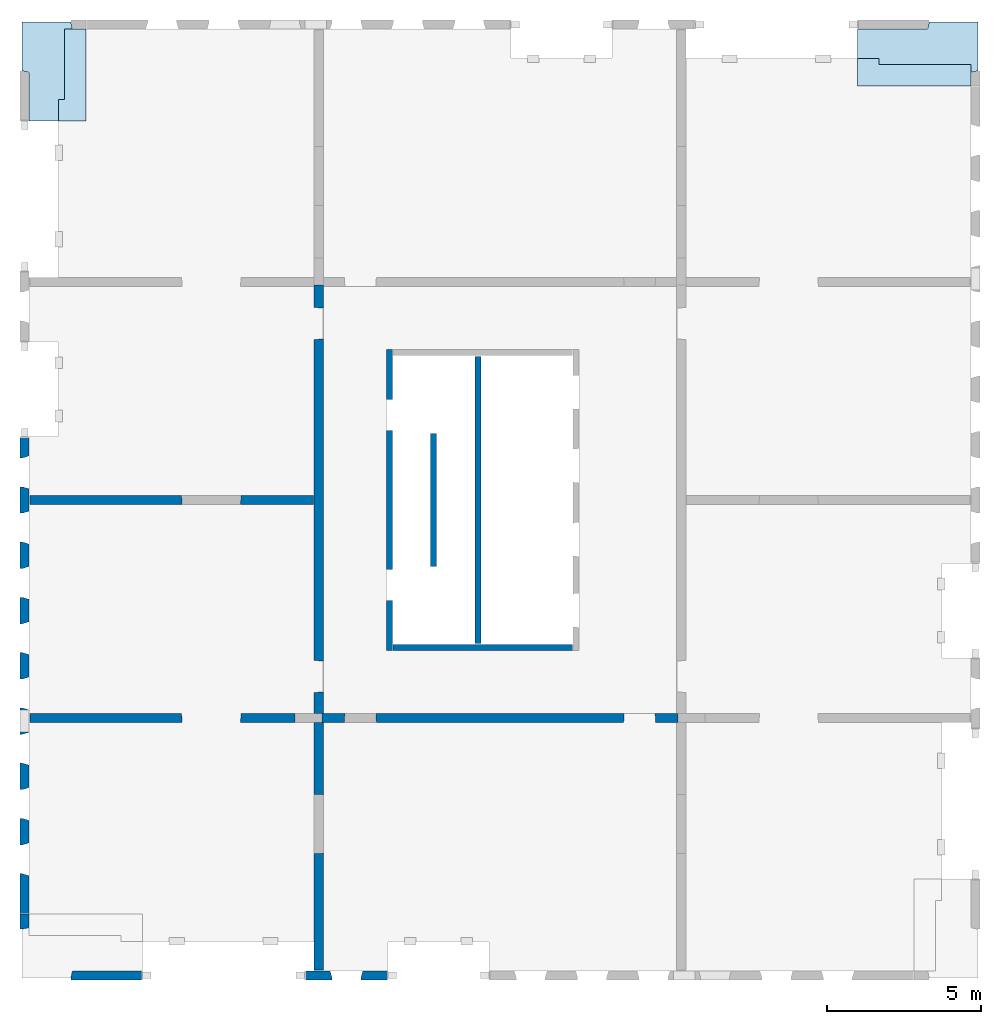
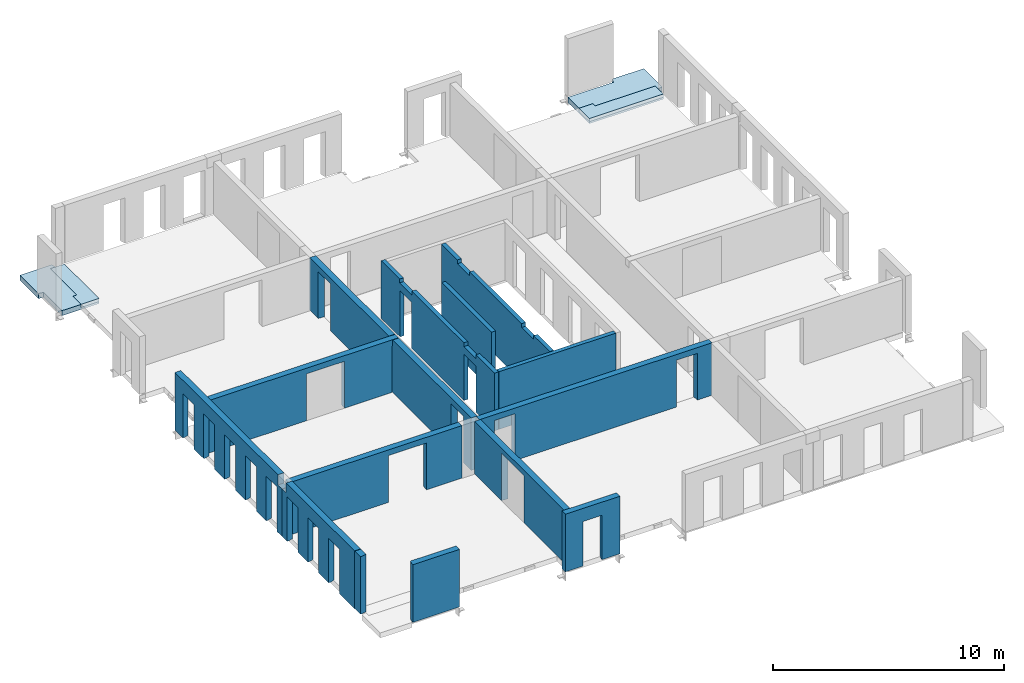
# One storey, part 2 of 4: 14 walls, 4 slabs, 34 openings.
"""IFC2X3 building model written with IfcOpenShell, lengths in millimetres."""

import ifcopenshell
import ifcopenshell.guid

model = None  # the IFC model being written
_history = None  # IfcOwnerHistory: only IFC2X3 demands one
_inside = {}  # id of a spatial element -> (the spatial element, [elements in it])
_under = {}  # id of a project, library or spatial element -> (it, [spatial elements below it])
_declared = {}  # id of a project -> (the project, [libraries it declares])
_typed = {}  # id of a type object -> (the type object, [elements of that type])
_made_of = {}  # id of a material, layer set ... -> (it, [elements and type objects made of it])


def new_model(schema):
    """Start an empty IFC model of exactly this schema.

    Asked for "IFC4X3", IfcOpenShell would pick the latest addendum, in which some entities
    have other attributes; the version numbers below select the first issue.
    IFC2X3 requires an IfcOwnerHistory on every rooted entity: one is made here for all.
    """
    global model, _history
    if schema == "IFC4X3":
        model = ifcopenshell.file(schema_version=(4, 3, 0, 0))
    else:
        model = ifcopenshell.file(schema=schema)
    _inside.clear()
    _under.clear()
    _declared.clear()
    _typed.clear()
    _made_of.clear()
    _history = None
    if model.schema == "IFC2X3":
        org = make("IfcOrganization", Name="unknown")
        user = make(
            "IfcPersonAndOrganization",
            ThePerson=make("IfcPerson", FamilyName="unknown"),
            TheOrganization=org,
        )
        app = make(
            "IfcApplication",
            ApplicationDeveloper=org,
            Version="unknown",
            ApplicationFullName="unknown",
            ApplicationIdentifier="unknown",
        )
        _history = make(
            "IfcOwnerHistory",
            OwningUser=user,
            OwningApplication=app,
            ChangeAction="ADDED",
            CreationDate=0,
        )
    return model


def make(cls, **values):
    """One entity of the class cls with the attributes given. An attribute that is None is left unset."""
    return model.create_entity(
        cls, **{name: value for name, value in values.items() if value is not None}
    )


def entity(cls, *values):
    """Any entity or typed value of the class cls, its attributes in the order of the schema. None: left unset."""
    e = model.create_entity(cls)
    for i, value in enumerate(values):
        if value is not None:
            e[i] = value
    return e


def rooted(cls, **values):
    """An entity with a GlobalId (a new one), such as an element, a storey or a relation."""
    return make(cls, GlobalId=ifcopenshell.guid.new(), OwnerHistory=_history, **values)


def si_unit(unit_type, name, prefix=None):
    """IfcSIUnit, for example si_unit("LENGTHUNIT", "METRE", prefix="MILLI")."""
    return make("IfcSIUnit", UnitType=unit_type, Prefix=prefix, Name=name)


def converted_unit(unit_type, name, factor, base, dimensions=None, offset=None):
    """IfcConversionBasedUnit, such as the inch: factor (a typed value) times the base unit."""
    return make(
        "IfcConversionBasedUnit"
        if offset is None
        else "IfcConversionBasedUnitWithOffset",
        ConversionOffset=offset,
        Dimensions=None
        if dimensions is None
        else entity("IfcDimensionalExponents", *dimensions),
        UnitType=unit_type,
        Name=name,
        ConversionFactor=make(
            "IfcMeasureWithUnit", ValueComponent=factor, UnitComponent=base
        ),
    )


def derived_unit(unit_type, elements):
    """IfcDerivedUnit: a product of units, each with its exponent."""
    return make(
        "IfcDerivedUnit",
        Elements=[
            make("IfcDerivedUnitElement", Unit=unit, Exponent=power)
            for unit, power in elements
        ],
        UnitType=unit_type,
    )


def assignment(units):
    """IfcUnitAssignment: the units of a project."""
    return None if units is None else make("IfcUnitAssignment", Units=units)


def point(xyz):
    """IfcCartesianPoint."""
    return None if xyz is None else make("IfcCartesianPoint", Coordinates=xyz)


def direction(xyz):
    """IfcDirection."""
    return None if xyz is None else make("IfcDirection", DirectionRatios=xyz)


def frame(location, z_axis=None, x_axis=None):
    """IfcAxis2Placement3D, a coordinate frame: its origin and axes. An axis left out is left unset."""
    return make(
        "IfcAxis2Placement3D",
        Location=point(location),
        Axis=direction(z_axis),
        RefDirection=direction(x_axis),
    )


def frame_2d(location, x_axis=None):
    """IfcAxis2Placement2D, a coordinate frame in the plane: its origin and x axis."""
    return make(
        "IfcAxis2Placement2D", Location=point(location), RefDirection=direction(x_axis)
    )


def origin():
    """The frame at (0, 0, 0) with its axes left unset."""
    return frame((0.0, 0.0, 0.0))


def place(relative_to, where):
    """IfcLocalPlacement: puts the frame where relative to a parent placement (None: the world)."""
    return make(
        "IfcLocalPlacement", PlacementRelTo=relative_to, RelativePlacement=where
    )


def context(
    kind, dimensions, precision=None, world=None, true_north=None, identifier=None
):
    """IfcGeometricRepresentationContext, for example the 3D "Model" context."""
    return make(
        "IfcGeometricRepresentationContext",
        ContextIdentifier=identifier,
        ContextType=kind,
        CoordinateSpaceDimension=dimensions,
        Precision=precision,
        WorldCoordinateSystem=world,
        TrueNorth=true_north,
    )


def subcontext(parent, identifier, kind, view, scale=None):
    """IfcGeometricRepresentationSubContext, for example "Body" below "Model"."""
    return make(
        "IfcGeometricRepresentationSubContext",
        ContextIdentifier=identifier,
        ContextType=kind,
        ParentContext=parent,
        TargetScale=scale,
        TargetView=view,
    )


def project(units=None, contexts=None):
    """IfcProject with its units and contexts."""
    return rooted(
        "IfcProject",
        Name="project",
        RepresentationContexts=contexts,
        UnitsInContext=assignment(units),
    )


def spatial(cls, under=None, at=None, **own):
    """A site, building, storey or space (cls), placed at a placement, below another one or the project."""
    s = rooted(cls, ObjectPlacement=at, **own)
    if under is not None:
        _under.setdefault(under.id(), (under, []))[1].append(s)
    return s


def polyline(points):
    """IfcPolyline through the points."""
    return make("IfcPolyline", Points=[point(p) for p in points])


def profile(cls, at=None, kind="AREA", **sizes):
    """A parametric profile (cls). Its sizes go by their IFC names, for example OverallWidth=200.0."""
    return make(cls, ProfileType=kind, Position=at, **sizes)


def rectangle(**sizes):
    """IfcRectangleProfileDef."""
    return profile("IfcRectangleProfileDef", **sizes)


def outline(outer, holes=None, kind="AREA"):
    """IfcArbitraryClosedProfileDef: a profile drawn as a closed curve; with holes, ...WithVoids."""
    if holes is None:
        return make("IfcArbitraryClosedProfileDef", ProfileType=kind, OuterCurve=outer)
    return make(
        "IfcArbitraryProfileDefWithVoids",
        ProfileType=kind,
        OuterCurve=outer,
        InnerCurves=holes,
    )


def extrude(swept, where, along, depth):
    """IfcExtrudedAreaSolid: the profile swept, set in the frame where, extruded along a direction by depth."""
    return make(
        "IfcExtrudedAreaSolid",
        SweptArea=swept,
        Position=where,
        ExtrudedDirection=direction(along),
        Depth=depth,
    )


def faces_of(points, faces, orient=None, outer=None):
    """IfcFace entities. A face is a list of loops; a loop is a list of indices into points, from 0.

    orient and outer hold one flag for each loop. By default every Orientation is true, the
    first loop of a face is its IfcFaceOuterBound and the others are IfcFaceBound.
    """
    made = []
    for i, loops in enumerate(faces):
        bounds = []
        for j, loop in enumerate(loops):
            is_outer = j == 0 if outer is None else outer[i][j]
            bounds.append(
                make(
                    "IfcFaceOuterBound" if is_outer else "IfcFaceBound",
                    Bound=make("IfcPolyLoop", Polygon=[points[k] for k in loop]),
                    Orientation=True if orient is None else orient[i][j],
                )
            )
        made.append(make("IfcFace", Bounds=bounds))
    return made


def faceted_brep(points, faces, orient=None, outer=None, voids=None):
    """IfcFacetedBrep: a solid bounded by flat faces; with voids (closed shells), ...WithVoids."""
    shared = [point(p) for p in points]
    hull = make("IfcClosedShell", CfsFaces=faces_of(shared, faces, orient, outer))
    if voids is None:
        return make("IfcFacetedBrep", Outer=hull)
    return make(
        "IfcFacetedBrepWithVoids",
        Outer=hull,
        Voids=[
            make(cls, CfsFaces=faces_of(shared, fs, o, b)) for cls, fs, o, b in voids
        ],
    )


def shape(context_of_items, identifier, shape_type, items):
    """IfcShapeRepresentation: the items that make up one representation, for example the "Body"."""
    return make(
        "IfcShapeRepresentation",
        ContextOfItems=context_of_items,
        RepresentationIdentifier=identifier,
        RepresentationType=shape_type,
        Items=items,
    )


def material(Name=None, Category=None):
    """IfcMaterial."""
    return make("IfcMaterial", Name=Name, Category=Category)


def layer(
    of_material, thickness, ventilated=None, Name=None, Category=None, Priority=None
):
    """IfcMaterialLayer: one layer of a wall or slab, of a material (None: an air gap)."""
    return make(
        "IfcMaterialLayer",
        Material=of_material,
        LayerThickness=thickness,
        IsVentilated=ventilated,
        Name=Name,
        Category=Category,
        Priority=Priority,
    )


def layer_set(layers, Name=None):
    """IfcMaterialLayerSet."""
    return make("IfcMaterialLayerSet", MaterialLayers=layers, LayerSetName=Name)


def layer_usage(for_layer_set, set_direction, sense, offset, extent=None):
    """IfcMaterialLayerSetUsage: how a layer set lies in its element."""
    return make(
        "IfcMaterialLayerSetUsage",
        ForLayerSet=for_layer_set,
        LayerSetDirection=set_direction,
        DirectionSense=sense,
        OffsetFromReferenceLine=offset,
        ReferenceExtent=extent,
    )


def made_of(thing, what):
    """Note that an element or type object is made of a material, layer set ...; save() writes the relation."""
    if what is not None:
        _made_of.setdefault(what.id(), (what, []))[1].append(thing)
    return thing


def type_object(cls, material=None, **own):
    """A type object (cls), such as IfcWallType, which elements share."""
    return made_of(rooted(cls, **own), material)


def element(
    cls,
    number,
    at=None,
    inside=None,
    cuts=None,
    type_object=None,
    material=None,
    context=None,
    identifier="Body",
    shape_type=None,
    held_by="IfcProductDefinitionShape",
    body=None,
    shapes=None,
    **own,
):
    """One element of the class cls, such as IfcWall. Its Tag is "e" and its number.

    at: its placement. inside: the storey or other place that contains it. cuts: it is an
    opening in that element (IfcRelVoidsElement). A single representation is given by context,
    identifier, shape_type and body (its items); several are given by shapes. held_by: the class
    of the entity that holds the representations. save() writes the other relations.
    """
    e = rooted(cls, Tag="e%d" % number, ObjectPlacement=at, **own)
    if body is not None:
        shapes = [shape(context, identifier, shape_type, body)]
    if shapes is not None:
        e.Representation = make(held_by, Representations=shapes)
    if inside is not None:
        _inside.setdefault(inside.id(), (inside, []))[1].append(e)
    if cuts is not None:
        rooted(
            "IfcRelVoidsElement", RelatingBuildingElement=cuts, RelatedOpeningElement=e
        )
    if type_object is not None:
        _typed.setdefault(type_object.id(), (type_object, []))[1].append(e)
    return made_of(e, material)


def aggregate(whole, parts):
    """IfcRelAggregates: a whole, such as a stair, and the parts it consists of."""
    return rooted("IfcRelAggregates", RelatingObject=whole, RelatedObjects=parts)


def save(model, path):
    """Write the relations noted so far, then the file.

    IfcRelAggregates (storeys below a building ...), IfcRelContainedInSpatialStructure (elements
    in a storey), IfcRelDefinesByType, IfcRelAssociatesMaterial and IfcRelDeclares: one each for
    every whole, place, type object, material and project.
    """
    for whole, parts in _under.values():
        aggregate(whole, parts)
    for where, things in _inside.values():
        rooted(
            "IfcRelContainedInSpatialStructure",
            RelatedElements=things,
            RelatingStructure=where,
        )
    for kind, things in _typed.values():
        rooted("IfcRelDefinesByType", RelatedObjects=things, RelatingType=kind)
    for what, things in _made_of.values():
        rooted("IfcRelAssociatesMaterial", RelatedObjects=things, RelatingMaterial=what)
    for by, libraries in _declared.values():
        rooted("IfcRelDeclares", RelatingContext=by, RelatedDefinitions=libraries)
    model.write(path)


model = new_model("IFC2X3")

# Units and contexts
model_context = context("Model", 3, precision=0.01, world=origin(), true_north=direction((6.12303176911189e-17, 1.0)))
body_context = subcontext(model_context, "Body", "Model", "MODEL_VIEW")
ifc_project = project(units=[si_unit("LENGTHUNIT", "METRE", prefix="MILLI"), si_unit("AREAUNIT", "SQUARE_METRE"), si_unit("VOLUMEUNIT", "CUBIC_METRE"), converted_unit("PLANEANGLEUNIT", "DEGREE", entity("IfcRatioMeasure", 0.0174532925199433), si_unit("PLANEANGLEUNIT", "RADIAN"), dimensions=[0, 0, 0, 0, 0, 0, 0]), si_unit("MASSUNIT", "GRAM", prefix="KILO"), derived_unit("MASSDENSITYUNIT", [(si_unit("MASSUNIT", "GRAM", prefix="KILO"), 1), (si_unit("LENGTHUNIT", "METRE"), -3)]), si_unit("TIMEUNIT", "SECOND"), si_unit("FREQUENCYUNIT", "HERTZ"), si_unit("THERMODYNAMICTEMPERATUREUNIT", "DEGREE_CELSIUS"), derived_unit("THERMALTRANSMITTANCEUNIT", [(si_unit("MASSUNIT", "GRAM", prefix="KILO"), 1), (si_unit("THERMODYNAMICTEMPERATUREUNIT", "KELVIN"), -1), (si_unit("TIMEUNIT", "SECOND"), -3)]), derived_unit("VOLUMETRICFLOWRATEUNIT", [(si_unit("LENGTHUNIT", "METRE"), 3), (si_unit("TIMEUNIT", "SECOND"), -1)]), si_unit("ELECTRICCURRENTUNIT", "AMPERE"), si_unit("ELECTRICVOLTAGEUNIT", "VOLT"), si_unit("POWERUNIT", "WATT"), si_unit("FORCEUNIT", "NEWTON", prefix="KILO"), si_unit("ILLUMINANCEUNIT", "LUX"), si_unit("LUMINOUSFLUXUNIT", "LUMEN"), si_unit("LUMINOUSINTENSITYUNIT", "CANDELA"), derived_unit("USERDEFINED", [(si_unit("MASSUNIT", "GRAM", prefix="KILO"), -1), (si_unit("LENGTHUNIT", "METRE"), -2), (si_unit("TIMEUNIT", "SECOND"), 3), (si_unit("LUMINOUSFLUXUNIT", "LUMEN"), 1)]), derived_unit("LINEARVELOCITYUNIT", [(si_unit("LENGTHUNIT", "METRE"), 1), (si_unit("TIMEUNIT", "SECOND"), -1)]), si_unit("PRESSUREUNIT", "PASCAL"), derived_unit("USERDEFINED", [(si_unit("LENGTHUNIT", "METRE"), -2), (si_unit("MASSUNIT", "GRAM", prefix="KILO"), 1), (si_unit("TIMEUNIT", "SECOND"), -2)])], contexts=[model_context])

# Site, building, storey
site_placement = place(None, origin())
site = spatial("IfcSite", under=ifc_project, at=site_placement, Name="Default", CompositionType="ELEMENT")
building_placement = place(site_placement, origin())
building = spatial("IfcBuilding", under=site, at=building_placement, Name="niet gebruiken", CompositionType="ELEMENT")
storey_placement = place(building_placement, frame((0.0, 0.0, 134280.0)))
storey = spatial("IfcBuildingStorey", under=building, at=storey_placement, Name="43 drieënveertigste verdieping", CompositionType="ELEMENT", Elevation=134280.0)

# Slabs
ifc_material_1 = material(Name="NLRS_f2_beton prefab")
ifc_layer_1 = layer(ifc_material_1, 270.0)
ifc_layer_set_1 = layer_set([ifc_layer_1], Name="Floor:NLRS_23.22_FL_beton prefab d=270 3D element_gen")
ifc_layer_usage_1 = layer_usage(ifc_layer_set_1, "AXIS3", "POSITIVE", 0.0)
slab_1_placement = place(storey_placement, origin())
element("IfcSlab", 1, at=slab_1_placement, inside=storey, material=ifc_layer_usage_1, Name="Floor:NLRS_23.22_FL_beton prefab d=270 3D element_gen", ObjectType="Floor:NLRS_23.22_FL_beton prefab d=270 3D element_gen", PredefinedType="LANDING", context=body_context, shape_type="SweptSolid", body=[
    extrude(outline(polyline([(-322.675940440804, -982.471394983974), (1267.47139498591, -982.471394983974), (1267.47139498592, 607.675940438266), (1034.47139498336, 655.152429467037), (1034.47139498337, 1100.5286050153), (-1955.52860501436, 1100.52860501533), (-1955.52860501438, -749.471394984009), (-370.152429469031, -749.471394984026), (-322.675940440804, -982.471394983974)])), frame((127169.471394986, 31795.5286050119, -90.0), z_axis=(0.0, 0.0, -1.0), x_axis=(0.0, 1.0, 0.0)), (0.0, 0.0, 1.0), 270.000000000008),
])
ifc_material_2 = material(Name="NLRS_f2_beton ihwg")
ifc_layer_2 = layer(ifc_material_2, 170.0)
ifc_layer_set_2 = layer_set([ifc_layer_2], Name="Floor:NLRS_23.21_FL_beton ihwg d=170_gen")
ifc_layer_usage_2 = layer_usage(ifc_layer_set_2, "AXIS3", "POSITIVE", 0.0)
slab_2_placement = place(storey_placement, origin())
element("IfcSlab", 2, at=slab_2_placement, inside=storey, material=ifc_layer_usage_2, Name="Floor:NLRS_23.21_FL_beton ihwg d=170_gen", ObjectType="Floor:NLRS_23.21_FL_beton ihwg d=170_gen", PredefinedType="FLOOR", context=body_context, shape_type="SweptSolid", body=[
    extrude(outline(polyline([(-1230.0, -366.666666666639), (-530.0, -366.666666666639), (-530.0, -166.66666666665), (1760.0, -166.666666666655), (1760.0, 533.333333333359), (-1230.0, 533.333333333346), (-1230.0, -366.666666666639)])), frame((127736.666666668, 31070.0, -90.0), z_axis=(0.0, 0.0, -1.0), x_axis=(0.0, 1.0, 0.0)), (0.0, 0.0, 1.0), 169.999999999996),
])
ifc_layer_usage_3 = layer_usage(ifc_layer_set_1, "AXIS3", "POSITIVE", 0.0)
slab_3_placement = place(storey_placement, origin())
element("IfcSlab", 3, at=slab_3_placement, inside=storey, material=ifc_layer_usage_3, Name="Floor:NLRS_23.22_FL_beton prefab d=270 3D element_gen", ObjectType="Floor:NLRS_23.22_FL_beton prefab d=270 3D element_gen", PredefinedType="LANDING", context=body_context, shape_type="SweptSolid", body=[
    extrude(outline(polyline([(-1100.52860501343, -2480.52860501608), (749.471394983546, -2480.52860501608), (749.471394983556, -195.152429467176), (982.471394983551, -147.675940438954), (982.471394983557, 1442.47139498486), (-607.675940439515, 1442.47139498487), (-655.152429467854, 1209.47139498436), (-1100.52860501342, 1209.47139498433), (-1100.52860501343, -2480.52860501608)])), frame((155870.528605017, 32080.5286050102, -90.0), z_axis=(0.0, 0.0, -1.0), x_axis=(0.0, 1.0, 0.0)), (0.0, 0.0, 1.0), 270.000000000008),
])
ifc_layer_usage_4 = layer_usage(ifc_layer_set_2, "AXIS3", "POSITIVE", 0.0)
slab_4_placement = place(storey_placement, origin())
element("IfcSlab", 4, at=slab_4_placement, inside=storey, material=ifc_layer_usage_4, Name="Floor:NLRS_23.21_FL_beton ihwg d=170_gen", ObjectType="Floor:NLRS_23.21_FL_beton ihwg d=170_gen", PredefinedType="FLOOR", context=body_context, shape_type="SweptSolid", body=[
    extrude(outline(polyline([(-533.333333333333, -1463.33333333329), (366.666666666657, -1463.33333333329), (366.666666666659, -763.333333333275), (166.66666666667, -763.333333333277), (166.666666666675, 2226.66666666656), (-533.333333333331, 2226.66666666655), (-533.333333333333, -1463.33333333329)])), frame((154853.333333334, 31513.3333333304, -90.0), z_axis=(0.0, 0.0, -1.0), x_axis=(0.0, 1.0, 0.0)), (0.0, 0.0, 1.0), 169.999999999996),
])

# Wall, openings
ifc_layer_3 = layer(ifc_material_1, 200.0)
ifc_layer_set_3 = layer_set([ifc_layer_3], Name="Basic Wall:NLRS_22.21_WA_beton prefab d=200_gen")
ifc_layer_usage_5 = layer_usage(ifc_layer_set_3, "AXIS2", "NEGATIVE", 100.0)
wall_type_1 = type_object("IfcWallType", Name="Basic Wall:NLRS_22.21_WA_beton prefab d=200_gen", PredefinedType="STANDARD", material=ifc_layer_set_3)
wall_1_placement = place(storey_placement, frame((138150.0, 22400.0, -50.0), z_axis=(0.0, 0.0, 1.0), x_axis=(0.0, -1.0, 0.0)))
wall_1 = element("IfcWallStandardCase", 5, at=wall_1_placement, inside=storey, type_object=wall_type_1, material=ifc_layer_usage_5, Name="Basic Wall:NLRS_22.21_WA_beton prefab d=200_gen", ObjectType="Basic Wall:NLRS_22.21_WA_beton prefab d=200_gen", context=body_context, shape_type="SweptSolid", body=[
    extrude(rectangle(XDim=9800.0, YDim=199.999999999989, at=frame_2d((4900.0, 3.76587649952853e-13), x_axis=(-1.0, 0.0))), origin(), (0.0, 0.0, 1.0), 3040.0),
])
opening_1_placement = place(wall_1_placement, origin())
element("IfcOpeningElement", 6, at=opening_1_placement, cuts=wall_1, Name="Basic Wall:NLRS_22.21_WA_beton prefab d=200_gen", ObjectType="Opening", context=body_context, shape_type="SweptSolid", body=[
    extrude(rectangle(XDim=200.000000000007, YDim=1044.0, at=frame_2d((-8.66862137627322e-12, 0.0), x_axis=(1.0, 0.0))), frame((7672.0, -100.0, 2940.0), z_axis=(0.0, 1.0, 0.0), x_axis=(0.0, 0.0, -1.0)), (0.0, 0.0, 1.0), 199.999999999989),
])
opening_2_placement = place(wall_1_placement, origin())
element("IfcOpeningElement", 7, at=opening_2_placement, cuts=wall_1, Name="Basic Wall:NLRS_22.21_WA_beton prefab d=200_gen", ObjectType="Opening", context=body_context, shape_type="SweptSolid", body=[
    extrude(rectangle(XDim=200.000000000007, YDim=1044.0, at=frame_2d((-8.66862137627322e-12, 2.1600499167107e-12), x_axis=(1.0, 0.0))), frame((2128.0, -100.0, 2940.0), z_axis=(0.0, 1.0, 0.0), x_axis=(0.0, 0.0, -1.0)), (0.0, 0.0, 1.0), 199.999999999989),
])
opening_3_placement = place(wall_1_placement, origin())
element("IfcOpeningElement", 8, at=opening_3_placement, cuts=wall_1, Name="Basic Wall:NLRS_22.21_WA_beton prefab d=200_gen", ObjectType="Opening", context=body_context, shape_type="SweptSolid", body=[
    extrude(rectangle(XDim=2435.0, YDim=1015.99999999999, at=frame_2d((0.0, 1.10844666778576e-12), x_axis=(1.0, 0.0))), frame((7672.0, -100.0, 1217.50000000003), z_axis=(0.0, 1.0, 0.0), x_axis=(0.0, 0.0, -1.0)), (0.0, 0.0, 1.0), 199.999999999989),
])
opening_4_placement = place(wall_1_placement, origin())
element("IfcOpeningElement", 9, at=opening_4_placement, cuts=wall_1, Name="Basic Wall:NLRS_22.21_WA_beton prefab d=200_gen", ObjectType="Opening", context=body_context, shape_type="SweptSolid", body=[
    extrude(rectangle(XDim=2435.0, YDim=1015.99999999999, at=frame_2d((0.0, -2.18847162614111e-12), x_axis=(1.0, 0.0))), frame((2128.0, -100.0, 1217.50000000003), z_axis=(0.0, 1.0, 0.0), x_axis=(0.0, 0.0, -1.0)), (0.0, 0.0, 1.0), 199.999999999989),
])

ifc_layer_usage_6 = layer_usage(ifc_layer_set_3, "AXIS2", "NEGATIVE", 100.0)
wall_2_placement = place(storey_placement, frame((141030.0, 22180.0, -50.0), z_axis=(0.0, 0.0, 1.0), x_axis=(0.0, -1.0, 0.0)))
wall_2 = element("IfcWallStandardCase", 10, at=wall_2_placement, inside=storey, type_object=wall_type_1, material=ifc_layer_usage_6, Name="Basic Wall:NLRS_22.21_WA_beton prefab d=200_gen", ObjectType="Basic Wall:NLRS_22.21_WA_beton prefab d=200_gen", context=body_context, shape_type="SweptSolid", body=[
    extrude(rectangle(XDim=9360.0, YDim=199.999999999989, at=frame_2d((4680.0, -2.8421709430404e-14), x_axis=(-1.0, 0.0))), origin(), (0.0, 0.0, 1.0), 3040.0),
])
opening_5_placement = place(wall_2_placement, origin())
element("IfcOpeningElement", 11, at=opening_5_placement, cuts=wall_2, Name="Basic Wall:NLRS_22.21_WA_beton prefab d=200_gen", ObjectType="Opening", context=body_context, shape_type="SweptSolid", body=[
    extrude(rectangle(XDim=70.0000000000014, YDim=1044.00000000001, at=frame_2d((-8.66506866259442e-12, 0.0), x_axis=(1.0, 0.0))), frame((7452.0, -100.0, 35.0), z_axis=(0.0, 1.0, 0.0), x_axis=(0.0, 0.0, -1.0)), (0.0, 0.0, 1.0), 199.999999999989),
])
opening_6_placement = place(wall_2_placement, origin())
element("IfcOpeningElement", 12, at=opening_6_placement, cuts=wall_2, Name="Basic Wall:NLRS_22.21_WA_beton prefab d=200_gen", ObjectType="Opening", context=body_context, shape_type="SweptSolid", body=[
    extrude(rectangle(XDim=70.0000000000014, YDim=1044.00000000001, at=frame_2d((-8.66506866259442e-12, 0.0), x_axis=(1.0, 0.0))), frame((1908.0, -100.0, 35.0), z_axis=(0.0, 1.0, 0.0), x_axis=(0.0, 0.0, -1.0)), (0.0, 0.0, 1.0), 199.999999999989),
])
opening_7_placement = place(wall_2_placement, origin())
element("IfcOpeningElement", 13, at=opening_7_placement, cuts=wall_2, Name="Basic Wall:NLRS_22.21_WA_beton prefab d=200_gen", ObjectType="Opening", context=body_context, shape_type="SweptSolid", body=[
    extrude(rectangle(XDim=200.000000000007, YDim=1044.00000000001, at=frame_2d((-8.66862137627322e-12, 0.0), x_axis=(1.0, 0.0))), frame((1908.0, -100.0, 2940.0), z_axis=(0.0, 1.0, 0.0), x_axis=(0.0, 0.0, -1.0)), (0.0, 0.0, 1.0), 199.999999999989),
])
opening_8_placement = place(wall_2_placement, origin())
element("IfcOpeningElement", 14, at=opening_8_placement, cuts=wall_2, Name="Basic Wall:NLRS_22.21_WA_beton prefab d=200_gen", ObjectType="Opening", context=body_context, shape_type="SweptSolid", body=[
    extrude(rectangle(XDim=200.000000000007, YDim=1044.00000000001, at=frame_2d((-8.66862137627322e-12, 0.0), x_axis=(1.0, 0.0))), frame((7452.0, -100.0, 2940.0), z_axis=(0.0, 1.0, 0.0), x_axis=(0.0, 0.0, -1.0)), (0.0, 0.0, 1.0), 199.999999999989),
])
opening_9_placement = place(wall_2_placement, origin())
element("IfcOpeningElement", 15, at=opening_9_placement, cuts=wall_2, Name="Basic Wall:NLRS_22.21_WA_beton prefab d=200_gen", ObjectType="Recess", context=body_context, shape_type="SweptSolid", body=[
    extrude(rectangle(XDim=399.999999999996, YDim=280.000000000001, at=frame_2d((-2.1600499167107e-12, -8.66862137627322e-12), x_axis=(0.0, 1.0))), frame((770.0, -60.0, 438.0), z_axis=(0.0, 1.0, 0.0), x_axis=(1.0, 0.0, 0.0)), (0.0, 0.0, 1.0), 159.999999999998),
])
opening_10_placement = place(wall_2_placement, origin())
element("IfcOpeningElement", 16, at=opening_10_placement, cuts=wall_2, Name="Basic Wall:NLRS_22.21_WA_beton prefab d=200_gen", ObjectType="Recess", context=body_context, shape_type="SweptSolid", body=[
    extrude(rectangle(XDim=399.999999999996, YDim=280.000000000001, at=frame_2d((-2.1600499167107e-12, -8.66862137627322e-12), x_axis=(0.0, 1.0))), frame((1570.0, -60.0, 438.0), z_axis=(0.0, 1.0, 0.0), x_axis=(1.0, 0.0, 0.0)), (0.0, 0.0, 1.0), 159.999999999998),
])
opening_11_placement = place(wall_2_placement, origin())
element("IfcOpeningElement", 17, at=opening_11_placement, cuts=wall_2, Name="Basic Wall:NLRS_22.21_WA_beton prefab d=200_gen", ObjectType="Recess", context=body_context, shape_type="SweptSolid", body=[
    extrude(rectangle(XDim=399.999999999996, YDim=279.999999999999, at=frame_2d((-1.08002495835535e-12, -8.66862137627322e-12), x_axis=(0.0, 1.0))), frame((3160.0, -60.0, 438.0), z_axis=(0.0, 1.0, 0.0), x_axis=(1.0, 0.0, 0.0)), (0.0, 0.0, 1.0), 159.999999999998),
])
opening_12_placement = place(wall_2_placement, origin())
element("IfcOpeningElement", 18, at=opening_12_placement, cuts=wall_2, Name="Basic Wall:NLRS_22.21_WA_beton prefab d=200_gen", ObjectType="Recess", context=body_context, shape_type="SweptSolid", body=[
    extrude(rectangle(XDim=399.999999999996, YDim=279.999999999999, at=frame_2d((1.08002495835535e-12, -8.66862137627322e-12), x_axis=(0.0, 1.0))), frame((3960.0, -60.0, 438.0), z_axis=(0.0, 1.0, 0.0), x_axis=(1.0, 0.0, 0.0)), (0.0, 0.0, 1.0), 159.999999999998),
])

# Walls
ifc_layer_usage_7 = layer_usage(ifc_layer_set_3, "AXIS2", "NEGATIVE", 100.0)
wall_3_placement = place(storey_placement, frame((139590.0, 19660.0, -50.0), z_axis=(0.0, 0.0, 1.0), x_axis=(0.0, -1.0, 0.0)))
element("IfcWallStandardCase", 19, at=wall_3_placement, inside=storey, type_object=wall_type_1, material=ifc_layer_usage_7, Name="Basic Wall:NLRS_22.21_WA_beton prefab d=200_gen", ObjectType="Basic Wall:NLRS_22.21_WA_beton prefab d=200_gen", context=body_context, shape_type="SweptSolid", body=[
    extrude(rectangle(XDim=4320.00000000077, YDim=199.999999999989, at=frame_2d((2160.00000000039, 0.0), x_axis=(-1.0, 0.0))), origin(), (0.0, 0.0, 1.0), 3040.0),
])
ifc_layer_usage_8 = layer_usage(ifc_layer_set_3, "AXIS2", "NEGATIVE", 100.0)
wall_4_placement = place(storey_placement, frame((138270.0, 12700.0, -50.0)))
element("IfcWallStandardCase", 20, at=wall_4_placement, inside=storey, type_object=wall_type_1, material=ifc_layer_usage_8, Name="Basic Wall:NLRS_22.21_WA_beton prefab d=200_gen", ObjectType="Basic Wall:NLRS_22.21_WA_beton prefab d=200_gen", context=body_context, shape_type="SweptSolid", body=[
    extrude(rectangle(XDim=5839.99999999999, YDim=199.999999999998, at=frame_2d((2919.99999999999, -6.82121026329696e-13), x_axis=(-1.0, 0.0))), origin(), (0.0, 0.0, 1.0), 3040.0),
])

# Wall, opening
ifc_layer_4 = layer(ifc_material_1, 300.0)
ifc_layer_set_4 = layer_set([ifc_layer_4], Name="Basic Wall:NLRS_22.21_WA_beton prefab d=300_gen")
ifc_layer_usage_9 = layer_usage(ifc_layer_set_4, "AXIS2", "NEGATIVE", 150.0)
wall_type_2 = type_object("IfcWallType", Name="Basic Wall:NLRS_22.21_WA_beton prefab d=300_gen", PredefinedType="STANDARD", material=ifc_layer_set_4)
wall_5_placement = place(storey_placement, frame((135850.0, 10250.0, -70.0), z_axis=(0.0, 0.0, 1.0), x_axis=(0.0, -1.0, 0.0)))
wall_5 = element("IfcWallStandardCase", 21, at=wall_5_placement, inside=storey, type_object=wall_type_2, material=ifc_layer_usage_9, Name="Basic Wall:NLRS_22.21_WA_beton prefab d=300_gen", ObjectType="Basic Wall:NLRS_22.21_WA_beton prefab d=300_gen", context=body_context, shape_type="SweptSolid", body=[
    extrude(rectangle(XDim=8059.99999999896, YDim=300.000000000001, at=frame_2d((4029.99999999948, 1.22213350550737e-12), x_axis=(-1.0, 0.0))), origin(), (0.0, 0.0, 1.0), 2769.99999999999),
])
opening_13_placement = place(wall_5_placement, frame((4268.0, -150.0, 0.0)))
element("IfcOpeningElement", 22, at=opening_13_placement, cuts=wall_5, Name="Basic Wall:NLRS_22.21_WA_beton prefab d=300_gen", ObjectType="Opening", context=body_context, shape_type="Brep", body=[
    faceted_brep([(-18.0, 300.0, 2470.0), (-18.0, 300.0, 0.0), (-1918.0, 300.0, 0.0), (-1918.0, 300.0, 2470.0), (0.0, 0.0, 2488.0), (-1936.0, 0.0, 2488.0), (-1936.0, 0.0, 0.0), (0.0, 0.0, 0.0)], [[[0, 1, 2, 3]], [[4, 5, 6, 7]], [[4, 0, 3, 5]], [[5, 3, 2, 6]], [[6, 2, 1, 7]], [[7, 1, 0, 4]]]),
])

# Wall, openings
ifc_layer_usage_10 = layer_usage(ifc_layer_set_4, "AXIS2", "NEGATIVE", 150.0)
wall_6_placement = place(storey_placement, frame((135950.003540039, 10400.0, -70.0)))
wall_6 = element("IfcWallStandardCase", 23, at=wall_6_placement, inside=storey, type_object=wall_type_2, material=ifc_layer_usage_10, Name="Basic Wall:NLRS_22.21_WA_beton prefab d=300_gen", ObjectType="Basic Wall:NLRS_22.21_WA_beton prefab d=300_gen", context=body_context, shape_type="SweptSolid", body=[
    extrude(rectangle(XDim=11599.9964599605, YDim=300.000000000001, at=frame_2d((5799.99822998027, 1.70530256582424e-13), x_axis=(-1.0, 0.0))), origin(), (0.0, 0.0, 1.0), 2769.99999999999),
])
opening_14_placement = place(wall_6_placement, frame((731.996459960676, -150.0, 0.0)))
element("IfcOpeningElement", 24, at=opening_14_placement, cuts=wall_6, Name="Basic Wall:NLRS_22.21_WA_beton prefab d=300_gen", ObjectType="Opening", context=body_context, shape_type="Brep", body=[
    faceted_brep([(0.0, 0.0, 2466.0), (18.0, 300.0, 2448.0), (18.0, 300.0, 0.0), (0.0, 0.0, 0.0), (1024.0, 300.0, 0.0), (1042.0, 0.0, 0.0), (1024.0, 300.0, 2448.0), (1042.0, 0.0, 2466.0)], [[[0, 1, 2, 3]], [[3, 2, 4, 5]], [[6, 4, 2, 1]], [[7, 0, 3, 5]], [[7, 6, 1, 0]], [[5, 4, 6, 7]]]),
])
opening_15_placement = place(wall_6_placement, frame((9825.99645996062, -150.0, 0.0)))
element("IfcOpeningElement", 25, at=opening_15_placement, cuts=wall_6, Name="Basic Wall:NLRS_22.21_WA_beton prefab d=300_gen", ObjectType="Opening", context=body_context, shape_type="Brep", body=[
    faceted_brep([(0.0, 0.0, 2466.0), (18.0, 300.0, 2448.0), (18.0, 300.0, 0.0), (0.0, 0.0, 0.0), (1024.0, 300.0, 0.0), (1042.0, 0.0, 0.0), (1024.0, 300.0, 2448.0), (1042.0, 0.0, 2466.0)], [[[0, 1, 2, 3]], [[3, 2, 4, 5]], [[6, 4, 2, 1]], [[7, 0, 3, 5]], [[7, 6, 1, 0]], [[5, 4, 6, 7]]]),
])

ifc_layer_usage_11 = layer_usage(ifc_layer_set_4, "AXIS2", "NEGATIVE", 150.0)
wall_7_placement = place(storey_placement, frame((126440.0, 17500.0, -70.0)))
wall_7 = element("IfcWallStandardCase", 26, at=wall_7_placement, inside=storey, type_object=wall_type_2, material=ifc_layer_usage_11, Name="Basic Wall:NLRS_22.21_WA_beton prefab d=300_gen", ObjectType="Basic Wall:NLRS_22.21_WA_beton prefab d=300_gen", context=body_context, shape_type="SweptSolid", body=[
    extrude(rectangle(XDim=9559.9999999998, YDim=300.000000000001, at=frame_2d((4779.9999999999, -5.54223333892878e-13), x_axis=(-1.0, 0.0))), origin(), (0.0, 0.0, 1.0), 2769.99999999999),
])
opening_16_placement = place(wall_7_placement, frame((4942.0, -150.0, 0.0)))
element("IfcOpeningElement", 27, at=opening_16_placement, cuts=wall_7, Name="Basic Wall:NLRS_22.21_WA_beton prefab d=300_gen", ObjectType="Opening", context=body_context, shape_type="Brep", body=[
    faceted_brep([(1918.0, 0.0, 2470.0), (18.0, 0.0, 2470.0), (18.0, 0.0, 0.0), (1918.0, 0.0, 0.0), (1936.0, 300.0, 2488.0), (1936.0, 300.0, 0.0), (0.0, 300.0, 0.0), (0.0, 300.0, 2488.0)], [[[0, 1, 2, 3]], [[4, 5, 6, 7]], [[4, 7, 1, 0]], [[7, 6, 2, 1]], [[6, 5, 3, 2]], [[5, 4, 0, 3]]]),
])
opening_17_placement = place(wall_7_placement, origin())
element("IfcOpeningElement", 28, at=opening_17_placement, cuts=wall_7, Name="Basic Wall:NLRS_22.21_WA_beton prefab d=300_gen", ObjectType="Opening", context=body_context, shape_type="SweptSolid", body=[
    extrude(rectangle(XDim=2439.99999999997, YDim=319.999999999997, at=frame_2d((0.0, 0.0), x_axis=(0.0, 1.0))), frame((9400.0, 150.0, 1220.0), z_axis=(0.0, -1.0, 0.0), x_axis=(1.0, 0.0, 0.0)), (0.0, 0.0, 1.0), 300.0),
])

# Wall, opening
ifc_layer_usage_12 = layer_usage(ifc_layer_set_4, "AXIS2", "NEGATIVE", 150.0)
wall_8_placement = place(storey_placement, frame((126440.0, 10400.0, -70.0)))
wall_8 = element("IfcWallStandardCase", 29, at=wall_8_placement, inside=storey, type_object=wall_type_2, material=ifc_layer_usage_12, Name="Basic Wall:NLRS_22.21_WA_beton prefab d=300_gen", ObjectType="Basic Wall:NLRS_22.21_WA_beton prefab d=300_gen", context=body_context, shape_type="SweptSolid", body=[
    extrude(rectangle(XDim=8630.00354003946, YDim=300.000000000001, at=frame_2d((4315.00177001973, -2.70006239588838e-13), x_axis=(-1.0, 0.0))), origin(), (0.0, 0.0, 1.0), 2769.99999999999),
])
opening_18_placement = place(wall_8_placement, frame((4942.0, -150.0, 0.0)))
element("IfcOpeningElement", 30, at=opening_18_placement, cuts=wall_8, Name="Basic Wall:NLRS_22.21_WA_beton prefab d=300_gen", ObjectType="Opening", context=body_context, shape_type="Brep", body=[
    faceted_brep([(1918.0, 0.0, 2470.0), (18.0, 0.0, 2470.0), (18.0, 0.0, 0.0), (1918.0, 0.0, 0.0), (1936.0, 300.0, 2488.0), (1936.0, 300.0, 0.0), (0.0, 300.0, 0.0), (0.0, 300.0, 2488.0)], [[[0, 1, 2, 3]], [[4, 5, 6, 7]], [[4, 7, 1, 0]], [[7, 6, 2, 1]], [[6, 5, 3, 2]], [[5, 4, 0, 3]]]),
])

# Wall, openings
ifc_layer_usage_13 = layer_usage(ifc_layer_set_4, "AXIS2", "NEGATIVE", 150.0)
wall_9_placement = place(storey_placement, frame((135850.0, 24500.0, -70.0), z_axis=(0.0, 0.0, 1.0), x_axis=(0.0, -1.0, 0.0)))
wall_9 = element("IfcWallStandardCase", 31, at=wall_9_placement, inside=storey, type_object=wall_type_2, material=ifc_layer_usage_13, Name="Basic Wall:NLRS_22.21_WA_beton prefab d=300_gen", ObjectType="Basic Wall:NLRS_22.21_WA_beton prefab d=300_gen", context=body_context, shape_type="SweptSolid", body=[
    extrude(rectangle(XDim=13949.999999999, YDim=300.000000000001, at=frame_2d((6974.99999999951, 4.2632564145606e-14), x_axis=(-1.0, 0.0))), origin(), (0.0, 0.0, 1.0), 2769.99999999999),
])
opening_19_placement = place(wall_9_placement, frame((13268.0, -150.0, 0.0)))
element("IfcOpeningElement", 32, at=opening_19_placement, cuts=wall_9, Name="Basic Wall:NLRS_22.21_WA_beton prefab d=300_gen", ObjectType="Opening", context=body_context, shape_type="Brep", body=[
    faceted_brep([(-1042.0, 0.0, 2466.0), (-1024.0, 300.0, 2448.0), (-1024.0, 300.0, 0.0), (-1042.0, 0.0, 0.0), (-18.0, 300.0, 0.0), (0.0, 0.0, 0.0), (-18.0, 300.0, 2448.0), (0.0, 0.0, 2466.0)], [[[0, 1, 2, 3]], [[3, 2, 4, 5]], [[6, 4, 2, 1]], [[7, 0, 3, 5]], [[7, 6, 1, 0]], [[5, 4, 6, 7]]]),
])
opening_20_placement = place(wall_9_placement, frame((1774.0, -150.0, 0.0)))
element("IfcOpeningElement", 33, at=opening_20_placement, cuts=wall_9, Name="Basic Wall:NLRS_22.21_WA_beton prefab d=300_gen", ObjectType="Opening", context=body_context, shape_type="Brep", body=[
    faceted_brep([(-1042.0, 0.0, 2466.0), (-1024.0, 300.0, 2448.0), (-1024.0, 300.0, 0.0), (-1042.0, 0.0, 0.0), (-18.0, 300.0, 0.0), (0.0, 0.0, 0.0), (-18.0, 300.0, 2448.0), (0.0, 0.0, 2466.0)], [[[0, 1, 2, 3]], [[3, 2, 4, 5]], [[6, 4, 2, 1]], [[7, 0, 3, 5]], [[7, 6, 1, 0]], [[5, 4, 6, 7]]]),
])
opening_21_placement = place(wall_9_placement, origin())
element("IfcOpeningElement", 34, at=opening_21_placement, cuts=wall_9, Name="Basic Wall:NLRS_22.21_WA_beton prefab d=300_gen", ObjectType="Opening", context=body_context, shape_type="SweptSolid", body=[
    extrude(rectangle(XDim=350.000000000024, YDim=339.999999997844, at=frame_2d((0.0, 0.0), x_axis=(0.0, 1.0))), frame((7000.0, 150.0, 2595.0), z_axis=(0.0, -1.0, 0.0), x_axis=(-1.0, 0.0, 0.0)), (0.0, 0.0, 1.0), 300.0),
])

# Wall, opening
ifc_layer_5 = layer(ifc_material_1, 300.0)
ifc_layer_set_5 = layer_set([ifc_layer_5], Name="Basic Wall:NLRS_21.21_WA_beton prefab d=300/320_gen")
ifc_layer_usage_14 = layer_usage(ifc_layer_set_5, "AXIS2", "NEGATIVE", 150.0)
wall_type_3 = type_object("IfcWallType", Name="Basic Wall:NLRS_21.21_WA_beton prefab d=300/320_gen", PredefinedType="STANDARD", material=ifc_layer_set_5)
wall_10_placement = place(storey_placement, frame((138110.0, 2020.0, -50.0), z_axis=(0.0, 0.0, 1.0), x_axis=(-1.0, 0.0, 0.0)))
wall_10 = element("IfcWallStandardCase", 35, at=wall_10_placement, inside=storey, type_object=wall_type_3, material=ifc_layer_usage_14, Name="Basic Wall:NLRS_21.21_WA_beton prefab d=300/320_gen", ObjectType="Basic Wall:NLRS_21.21_WA_beton prefab d=300/320_gen", context=body_context, shape_type="SweptSolid", body=[
    extrude(rectangle(XDim=2720.00000000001, YDim=300.0, at=frame_2d((1360.0, -8.5265128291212e-14), x_axis=(-1.0, 0.0))), origin(), (0.0, 0.0, 1.0), 3040.0),
])
opening_22_placement = place(wall_10_placement, frame((1895.0, 150.0, -20.0)))
element("IfcOpeningElement", 36, at=opening_22_placement, cuts=wall_10, Name="Basic Wall:NLRS_21.21_WA_beton prefab d=300/320_gen", ObjectType="Opening", context=body_context, shape_type="Brep", body=[
    faceted_brep([(-1070.0, -300.0, 2405.0), (-1070.0, -300.0, 0.0), (0.0, -300.0, 0.0), (0.0, -300.0, 2405.0), (-65.0, -81.0, 2370.0), (-1005.0, -81.0, 2370.0), (-65.0, -81.0, 0.0), (-1005.0, -81.0, 0.0), (-1005.0, 0.0, 0.0), (-65.0, 0.0, 0.0), (-1005.0, 0.0, 2370.0), (-65.0, 0.0, 2370.0)], [[[0, 1, 2, 3]], [[3, 4, 5, 0]], [[2, 6, 4, 3]], [[1, 7, 8, 9, 6, 2]], [[0, 5, 7, 1]], [[10, 11, 9, 8]], [[10, 5, 4, 11]], [[11, 4, 6, 9]], [[8, 7, 5, 10]]]),
])

# Wall, openings
ifc_layer_usage_15 = layer_usage(ifc_layer_set_5, "AXIS2", "NEGATIVE", 150.0)
wall_11_placement = place(storey_placement, frame((126270.0, 4040.0, -50.0), z_axis=(0.0, 0.0, 1.0), x_axis=(0.0, 1.0, 0.0)))
wall_11 = element("IfcWallStandardCase", 37, at=wall_11_placement, inside=storey, type_object=wall_type_3, material=ifc_layer_usage_15, Name="Basic Wall:NLRS_21.21_WA_beton prefab d=300/320_gen", ObjectType="Basic Wall:NLRS_21.21_WA_beton prefab d=300/320_gen", context=body_context, shape_type="SweptSolid", body=[
    extrude(rectangle(XDim=6249.99999999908, YDim=300.000000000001, at=frame_2d((3124.99999999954, 0.0), x_axis=(-1.0, 0.0))), origin(), (0.0, 0.0, 1.0), 3040.0),
])
opening_23_placement = place(wall_11_placement, frame((1225.0, 150.0, -20.0)))
element("IfcOpeningElement", 38, at=opening_23_placement, cuts=wall_11, Name="Basic Wall:NLRS_21.21_WA_beton prefab d=300/320_gen", ObjectType="Opening", context=body_context, shape_type="Brep", body=[
    faceted_brep([(0.0, -300.0, 2405.0), (0.0, -300.0, 0.0), (1070.0, -300.0, 0.0), (1070.0, -300.0, 2405.0), (1005.0, -81.0, 2370.0), (65.0, -81.0, 2370.0), (1005.0, -81.0, 0.0), (65.0, -81.0, 0.0), (65.0, 0.0, 0.0), (1005.0, 0.0, 0.0), (65.0, 0.0, 2370.0), (1005.0, 0.0, 2370.0)], [[[0, 1, 2, 3]], [[3, 4, 5, 0]], [[2, 6, 4, 3]], [[1, 7, 8, 9, 6, 2]], [[0, 5, 7, 1]], [[10, 11, 9, 8]], [[10, 5, 4, 11]], [[11, 4, 6, 9]], [[8, 7, 5, 10]]]),
])
opening_24_placement = place(wall_11_placement, frame((3025.0, 150.0, -20.0)))
element("IfcOpeningElement", 39, at=opening_24_placement, cuts=wall_11, Name="Basic Wall:NLRS_21.21_WA_beton prefab d=300/320_gen", ObjectType="Opening", context=body_context, shape_type="Brep", body=[
    faceted_brep([(0.0, -300.0, 2405.0), (0.0, -300.0, 0.0), (1070.0, -300.0, 0.0), (1070.0, -300.0, 2405.0), (1005.0, -81.0, 2370.0), (65.0, -81.0, 2370.0), (1005.0, -81.0, 0.0), (65.0, -81.0, 0.0), (65.0, 0.0, 0.0), (1005.0, 0.0, 0.0), (65.0, 0.0, 2370.0), (1005.0, 0.0, 2370.0)], [[[0, 1, 2, 3]], [[3, 4, 5, 0]], [[2, 6, 4, 3]], [[1, 7, 8, 9, 6, 2]], [[0, 5, 7, 1]], [[10, 11, 9, 8]], [[10, 5, 4, 11]], [[11, 4, 6, 9]], [[8, 7, 5, 10]]]),
])
opening_25_placement = place(wall_11_placement, frame((4825.0, 150.0, -20.0)))
element("IfcOpeningElement", 40, at=opening_25_placement, cuts=wall_11, Name="Basic Wall:NLRS_21.21_WA_beton prefab d=300/320_gen", ObjectType="Opening", context=body_context, shape_type="Brep", body=[
    faceted_brep([(0.0, -300.0, 2405.0), (0.0, -300.0, 0.0), (1070.0, -300.0, 0.0), (1070.0, -300.0, 2405.0), (1005.0, -81.0, 2370.0), (65.0, -81.0, 2370.0), (1005.0, -81.0, 0.0), (65.0, -81.0, 0.0), (65.0, 0.0, 0.0), (1005.0, 0.0, 0.0), (65.0, 0.0, 2370.0), (1005.0, 0.0, 2370.0)], [[[0, 1, 2, 3]], [[3, 4, 5, 0]], [[2, 6, 4, 3]], [[1, 7, 8, 9, 6, 2]], [[0, 5, 7, 1]], [[10, 11, 9, 8]], [[10, 5, 4, 11]], [[11, 4, 6, 9]], [[8, 7, 5, 10]]]),
])
opening_26_placement = place(wall_11_placement, origin())
element("IfcOpeningElement", 41, at=opening_26_placement, cuts=wall_11, Name="Basic Wall:NLRS_21.21_WA_beton prefab d=300/320_gen", ObjectType="Opening", context=body_context, shape_type="SweptSolid", body=[
    extrude(rectangle(XDim=534.99999999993, YDim=344.999999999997, at=frame_2d((0.0, 1.08002495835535e-12), x_axis=(1.0, 0.0))), frame((6077.49999999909, 150.0, 2772.50000000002), z_axis=(0.0, -1.0, 0.0), x_axis=(0.0, 0.0, 1.0)), (0.0, 0.0, 1.0), 300.0),
])

# Wall, opening
ifc_layer_usage_16 = layer_usage(ifc_layer_set_5, "AXIS2", "NEGATIVE", 150.0)
wall_12_placement = place(storey_placement, frame((130110.0, 2020.0, -50.0), z_axis=(0.0, 0.0, 1.0), x_axis=(-1.0, 0.0, 0.0)))
wall_12 = element("IfcWallStandardCase", 42, at=wall_12_placement, inside=storey, type_object=wall_type_3, material=ifc_layer_usage_16, Name="Basic Wall:NLRS_21.21_WA_beton prefab d=300/320_gen", ObjectType="Basic Wall:NLRS_21.21_WA_beton prefab d=300/320_gen", context=body_context, shape_type="SweptSolid", body=[
    extrude(rectangle(XDim=2330.00000000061, YDim=300.0, at=frame_2d((1165.00000000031, -5.6843418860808e-14), x_axis=(-1.0, 0.0))), origin(), (0.0, 0.0, 1.0), 3040.0),
])
opening_27_placement = place(wall_12_placement, frame((2330.0, 69.0, 0.0)))
element("IfcOpeningElement", 43, at=opening_27_placement, cuts=wall_12, Name="Basic Wall:NLRS_21.21_WA_beton prefab d=300/320_gen", ObjectType="Opening", context=body_context, shape_type="Brep", body=[
    faceted_brep([(0.0, -319.0, 3040.0), (0.0, 0.0, 3040.0), (-65.0, -319.0, 3040.0), (0.0, -319.0, 0.0), (-65.0, -319.0, 0.0), (0.0, 0.0, 0.0)], [[[0, 1, 2]], [[3, 4, 5]], [[2, 4, 3, 0]], [[0, 3, 5, 1]], [[1, 5, 4, 2]]]),
])

ifc_layer_usage_17 = layer_usage(ifc_layer_set_5, "AXIS2", "NEGATIVE", 150.0)
wall_13_placement = place(storey_placement, frame((126270.0, 3530.0, -50.0), z_axis=(0.0, 0.0, 1.0), x_axis=(0.0, 1.0, 0.0)))
wall_13 = element("IfcWallStandardCase", 44, at=wall_13_placement, inside=storey, type_object=wall_type_3, material=ifc_layer_usage_17, Name="Basic Wall:NLRS_21.21_WA_beton prefab d=300/320_gen", ObjectType="Basic Wall:NLRS_21.21_WA_beton prefab d=300/320_gen", context=body_context, shape_type="SweptSolid", body=[
    extrude(rectangle(XDim=489.999999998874, YDim=300.000000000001, at=frame_2d((244.999999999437, -3.25428572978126e-12), x_axis=(-1.0, 0.0))), origin(), (0.0, 0.0, 1.0), 3040.0),
])
opening_28_placement = place(wall_13_placement, frame((-1.97405825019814e-09, 69.0, 0.0)))
element("IfcOpeningElement", 45, at=opening_28_placement, cuts=wall_13, Name="Basic Wall:NLRS_21.21_WA_beton prefab d=300/320_gen", ObjectType="Opening", context=body_context, shape_type="Brep", body=[
    faceted_brep([(0.0, -319.0, 3040.0), (65.0, -319.0, 3040.0), (0.0, 0.0, 3040.0), (0.0, -319.0, 0.0), (0.0, 0.0, 0.0), (65.0, -319.0, 0.0)], [[[0, 1, 2]], [[3, 4, 5]], [[1, 0, 3, 5]], [[0, 2, 4, 3]], [[2, 1, 5, 4]]]),
])

# Wall, openings
ifc_layer_usage_18 = layer_usage(ifc_layer_set_5, "AXIS2", "NEGATIVE", 150.0)
wall_14_placement = place(storey_placement, frame((126270.0, 10310.0, -50.0), z_axis=(0.0, 0.0, 1.0), x_axis=(0.0, 1.0, 0.0)))
wall_14 = element("IfcWallStandardCase", 46, at=wall_14_placement, inside=storey, type_object=wall_type_3, material=ifc_layer_usage_18, Name="Basic Wall:NLRS_21.21_WA_beton prefab d=300/320_gen", ObjectType="Basic Wall:NLRS_21.21_WA_beton prefab d=300/320_gen", context=body_context, shape_type="SweptSolid", body=[
    extrude(rectangle(XDim=9250.00000000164, YDim=300.000000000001, at=frame_2d((4625.00000000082, 0.0), x_axis=(-1.0, 0.0))), origin(), (0.0, 0.0, 1.0), 3040.0),
])
opening_29_placement = place(wall_14_placement, frame((7555.0, 150.0, -20.0)))
element("IfcOpeningElement", 47, at=opening_29_placement, cuts=wall_14, Name="Basic Wall:NLRS_21.21_WA_beton prefab d=300/320_gen", ObjectType="Opening", context=body_context, shape_type="Brep", body=[
    faceted_brep([(0.0, -300.0, 2405.0), (0.0, -300.0, 0.0), (1070.0, -300.0, 0.0), (1070.0, -300.0, 2405.0), (1005.0, -81.0, 2370.0), (65.0, -81.0, 2370.0), (1005.0, -81.0, 0.0), (65.0, -81.0, 0.0), (65.0, 0.0, 0.0), (1005.0, 0.0, 0.0), (65.0, 0.0, 2370.0), (1005.0, 0.0, 2370.0)], [[[0, 1, 2, 3]], [[3, 4, 5, 0]], [[2, 6, 4, 3]], [[1, 7, 8, 9, 6, 2]], [[0, 5, 7, 1]], [[10, 11, 9, 8]], [[10, 5, 4, 11]], [[11, 4, 6, 9]], [[8, 7, 5, 10]]]),
])
opening_30_placement = place(wall_14_placement, frame((3955.0, 150.0, -20.0)))
element("IfcOpeningElement", 48, at=opening_30_placement, cuts=wall_14, Name="Basic Wall:NLRS_21.21_WA_beton prefab d=300/320_gen", ObjectType="Opening", context=body_context, shape_type="Brep", body=[
    faceted_brep([(0.0, -300.0, 2405.0), (0.0, -300.0, 0.0), (1070.0, -300.0, 0.0), (1070.0, -300.0, 2405.0), (1005.0, -81.0, 2370.0), (65.0, -81.0, 2370.0), (1005.0, -81.0, 0.0), (65.0, -81.0, 0.0), (65.0, 0.0, 0.0), (1005.0, 0.0, 0.0), (65.0, 0.0, 2370.0), (1005.0, 0.0, 2370.0)], [[[0, 1, 2, 3]], [[3, 4, 5, 0]], [[2, 6, 4, 3]], [[1, 7, 8, 9, 6, 2]], [[0, 5, 7, 1]], [[10, 11, 9, 8]], [[10, 5, 4, 11]], [[11, 4, 6, 9]], [[8, 7, 5, 10]]]),
])
opening_31_placement = place(wall_14_placement, frame((2155.0, 150.0, -20.0)))
element("IfcOpeningElement", 49, at=opening_31_placement, cuts=wall_14, Name="Basic Wall:NLRS_21.21_WA_beton prefab d=300/320_gen", ObjectType="Opening", context=body_context, shape_type="Brep", body=[
    faceted_brep([(0.0, -300.0, 2405.0), (0.0, -300.0, 0.0), (1070.0, -300.0, 0.0), (1070.0, -300.0, 2405.0), (1005.0, -81.0, 2370.0), (65.0, -81.0, 2370.0), (1005.0, -81.0, 0.0), (65.0, -81.0, 0.0), (65.0, 0.0, 0.0), (1005.0, 0.0, 0.0), (65.0, 0.0, 2370.0), (1005.0, 0.0, 2370.0)], [[[0, 1, 2, 3]], [[3, 4, 5, 0]], [[2, 6, 4, 3]], [[1, 7, 8, 9, 6, 2]], [[0, 5, 7, 1]], [[10, 11, 9, 8]], [[10, 5, 4, 11]], [[11, 4, 6, 9]], [[8, 7, 5, 10]]]),
])
opening_32_placement = place(wall_14_placement, frame((5755.0, 150.0, -20.0)))
element("IfcOpeningElement", 50, at=opening_32_placement, cuts=wall_14, Name="Basic Wall:NLRS_21.21_WA_beton prefab d=300/320_gen", ObjectType="Opening", context=body_context, shape_type="Brep", body=[
    faceted_brep([(0.0, -300.0, 2405.0), (0.0, -300.0, 0.0), (1070.0, -300.0, 0.0), (1070.0, -300.0, 2405.0), (1005.0, -81.0, 2370.0), (65.0, -81.0, 2370.0), (1005.0, -81.0, 0.0), (65.0, -81.0, 0.0), (65.0, 0.0, 0.0), (1005.0, 0.0, 0.0), (65.0, 0.0, 2370.0), (1005.0, 0.0, 2370.0)], [[[0, 1, 2, 3]], [[3, 4, 5, 0]], [[2, 6, 4, 3]], [[1, 7, 8, 9, 6, 2]], [[0, 5, 7, 1]], [[10, 11, 9, 8]], [[10, 5, 4, 11]], [[11, 4, 6, 9]], [[8, 7, 5, 10]]]),
])
opening_33_placement = place(wall_14_placement, frame((355.0, 150.0, -20.0)))
element("IfcOpeningElement", 51, at=opening_33_placement, cuts=wall_14, Name="Basic Wall:NLRS_21.21_WA_beton prefab d=300/320_gen", ObjectType="Opening", context=body_context, shape_type="Brep", body=[
    faceted_brep([(1070.0, -300.0, 2405.0), (0.0, -300.0, 2405.0), (0.0, -300.0, 0.0), (1070.0, -300.0, 0.0), (1005.0, -81.0, 2370.0), (65.0, -81.0, 2370.0), (65.0, -81.0, 0.0), (65.0, 0.0, 0.0), (1005.0, 0.0, 0.0), (1005.0, -81.0, 0.0), (1005.0, 0.0, 2370.0), (65.0, 0.0, 2370.0)], [[[0, 1, 2, 3]], [[1, 0, 4, 5]], [[2, 1, 5, 6]], [[3, 2, 6, 7, 8, 9]], [[0, 3, 9, 4]], [[10, 8, 7, 11]], [[10, 11, 5, 4]], [[11, 7, 6, 5]], [[8, 10, 4, 9]]]),
])
opening_34_placement = place(wall_14_placement, origin())
element("IfcOpeningElement", 52, at=opening_34_placement, cuts=wall_14, Name="Basic Wall:NLRS_21.21_WA_beton prefab d=300/320_gen", ObjectType="Opening", context=body_context, shape_type="SweptSolid", body=[
    extrude(rectangle(XDim=534.999999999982, YDim=345.000000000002, at=frame_2d((1.08002495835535e-12, -8.66862137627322e-12), x_axis=(0.0, 1.0))), frame((172.500000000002, 150.0, 2772.5), z_axis=(0.0, -1.0, 0.0), x_axis=(-1.0, 0.0, 0.0)), (0.0, 0.0, 1.0), 300.0),
])

save(model, "model.ifc")
